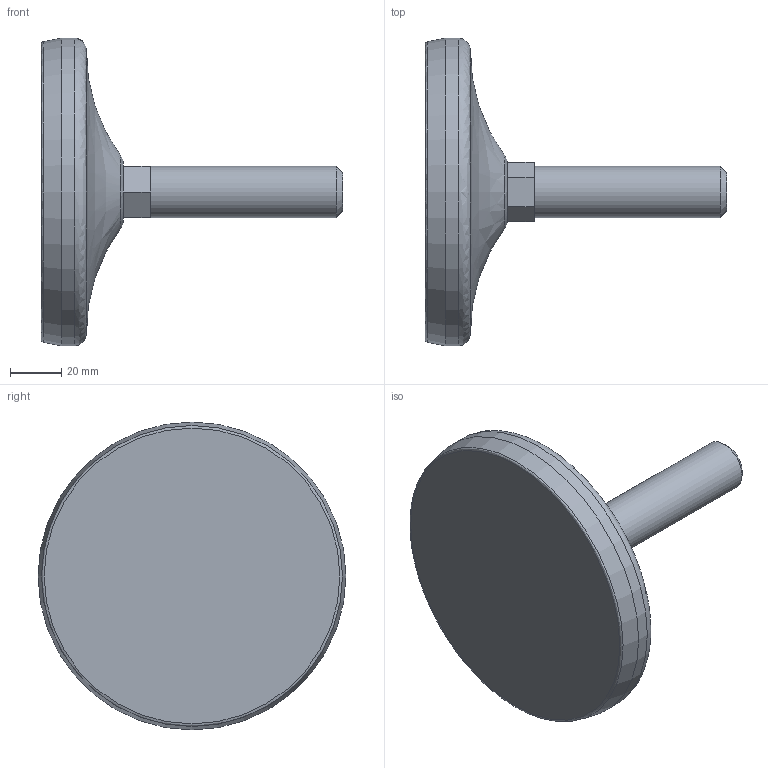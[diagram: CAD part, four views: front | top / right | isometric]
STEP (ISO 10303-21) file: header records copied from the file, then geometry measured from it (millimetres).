
FILE_DESCRIPTION(('STEP AP203'),'2;1');
FILE_NAME('26210.stp','2015-09-03T07:17:42',(''),(''),'2008.1.107','THINKDESIGN','');
FILE_SCHEMA(('CONFIG_CONTROL_DESIGN'));
Length unit declared in the file: millimetre
Bounding box: 117.5 x 120 x 120 mm (x, y, z)
Volume: 256668.8 mm3; surface area: 57568.4 mm2
Topology: 4 solids, 4 shells, 22 faces, 48 edges, 34 vertices
Faces by surface type: plane 14, bspline 6, cylinder 2
Full cylindrical faces by diameter (mm): 20 x1, 120 x1
Entity records: 950 total; most frequent: CARTESIAN_POINT 364, DIRECTION 106, ORIENTED_EDGE 96, EDGE_CURVE 48, AXIS2_PLACEMENT_3D 42, VERTEX_POINT 34, CIRCLE 26, EDGE_LOOP 22
